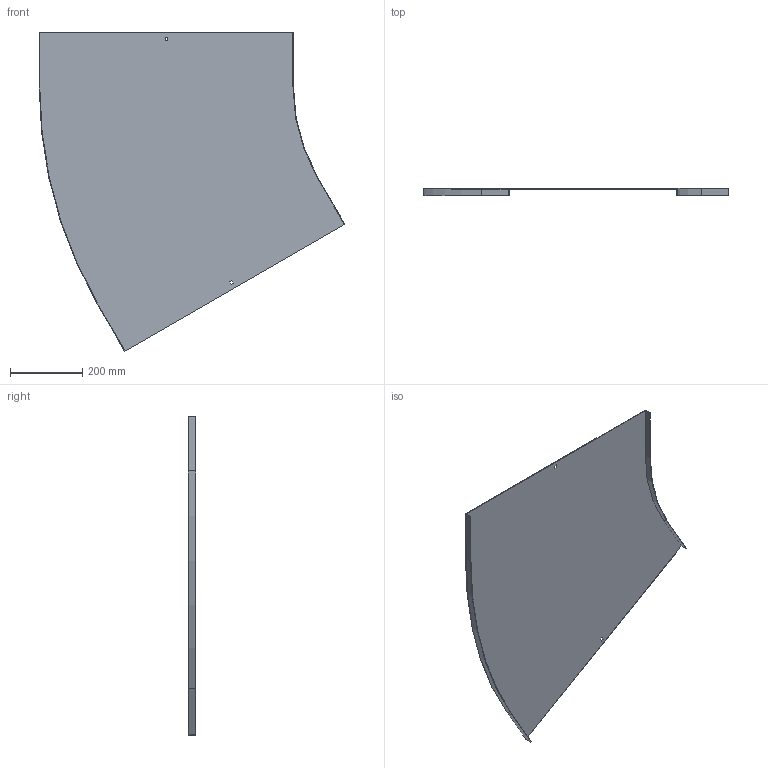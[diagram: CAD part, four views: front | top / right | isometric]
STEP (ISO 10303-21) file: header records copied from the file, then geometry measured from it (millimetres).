
FILE_DESCRIPTION (( 'STEP AP214' ), '1' );
FILE_NAME ('12N5R700.step', '2025-02-21T10:48:33', ( '' ), ( '' ), 'SwSTEP 2.0', 'SolidWorks 2023', '' );
FILE_SCHEMA (( 'AUTOMOTIVE_DESIGN' ));
Length unit declared in the file: millimetre
Products named in the file (1): 12N5R700
Bounding box: 844.79 x 20 x 880.65 mm (x, y, z)
Volume: 826839.9 mm3; surface area: 1107001.4 mm2
Topology: 1 solids, 1 shells, 26 faces, 72 edges, 48 vertices
Faces by surface type: plane 22, cylinder 4
Entity records: 855 total; most frequent: CARTESIAN_POINT 147, ORIENTED_EDGE 144, DIRECTION 134, EDGE_CURVE 72, VECTOR 64, LINE 64, VERTEX_POINT 48, AXIS2_PLACEMENT_3D 35
